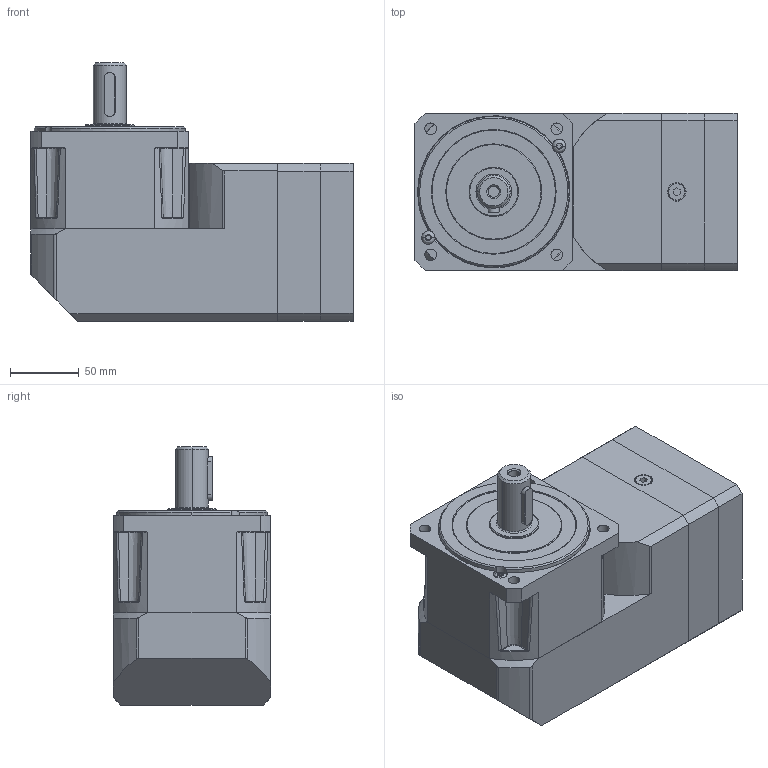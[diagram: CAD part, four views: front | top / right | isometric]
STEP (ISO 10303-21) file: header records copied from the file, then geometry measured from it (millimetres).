
FILE_DESCRIPTION((''),'2;1');
FILE_NAME('PS115-XXX-000-X2_ASM','2009-03-25T',('ata7311'),(''),'PRO/ENGINEER BY PARAMETRIC TECHNOLOGY CORPORATION, 2006300','PRO/ENGINEER BY PARAMETRIC TECHNOLOGY CORPORATION, 2006300','');
FILE_SCHEMA(('CONFIG_CONTROL_DESIGN'));
Products named in the file (16): 13376XXX; 13377000; 13378000; BHC-M5X8; HD202-0026; 13375XXX_ASM; 13379000; 13371000; 13373XXX; 13120003; M6X25; 12292001; 13366XXX_ASM; 13458001; M6X50; PS115-XXX-000-X2_ASM
Assembly tree (20 placements, depth 3):
  PS115-XXX-000-X2_ASM
    13375XXX_ASM
      13376XXX
      13377000
      13378000
      BHC-M5X8  x2
      HD202-0026
    13379000
    13366XXX_ASM
      13371000
      13373XXX
      13120003
      M6X25
      12292001  x2
    13458001
    M6X50  x4
Bounding box: 235 x 115 x 188.3 mm (x, y, z)
Volume: 2196987.7 mm3; surface area: 334357.7 mm2
Topology: 18 solids, 18 shells, 605 faces, 1392 edges, 888 vertices
Faces by surface type: cylinder 243, plane 232, cone 58, bspline 48, torus 24
Entity records: 17787 total; most frequent: CARTESIAN_POINT 5445, DIRECTION 2646, ORIENTED_EDGE 2416, EDGE_CURVE 1208, AXIS2_PLACEMENT_3D 1064, VERTEX_POINT 768, EDGE_LOOP 602, CIRCLE 543
